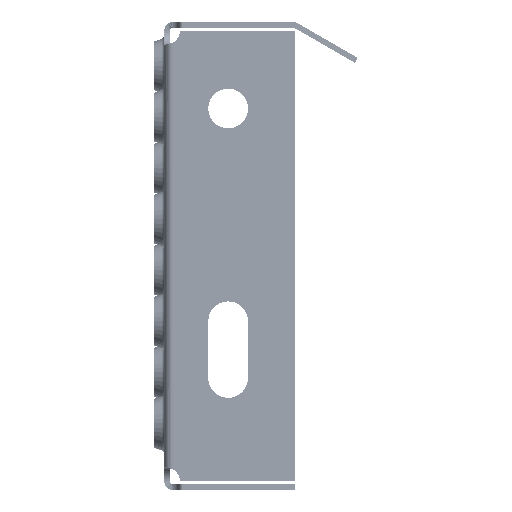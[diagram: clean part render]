
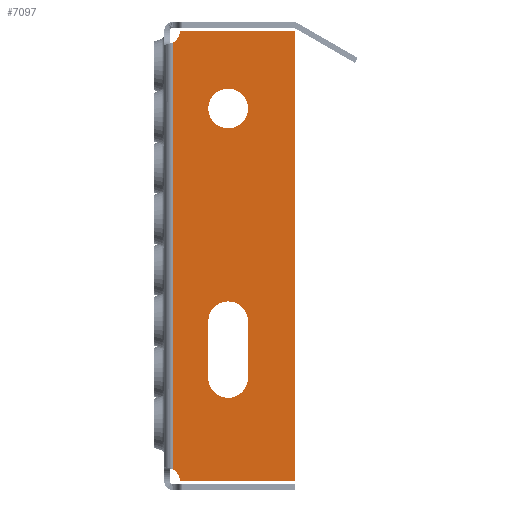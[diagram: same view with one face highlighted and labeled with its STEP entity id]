
A CAD part, left-side view. The second image highlights one B-rep face of the part: STEP entity #7097.
In plain terms, the highlighted planar face has unit normal (-1, 0, 0).
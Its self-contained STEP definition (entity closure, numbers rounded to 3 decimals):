
#428 = EDGE_CURVE ( 'NONE', #27324, #28965, #30324, .T. ) ;
#1532 = EDGE_LOOP ( 'NONE', ( #9585 ) ) ;
#1543 = CARTESIAN_POINT ( 'NONE',  ( -500., -29.5, -43. ) ) ;
#1598 = EDGE_CURVE ( 'NONE', #10504, #5624, #28109, .T. ) ;
#1746 = AXIS2_PLACEMENT_3D ( 'NONE', #19616, #3227, #22379 ) ;
#1761 = EDGE_CURVE ( 'NONE', #14379, #8423, #8438, .T. ) ;
#2084 = VECTOR ( 'NONE', #15971, 1000. ) ;
#2318 = DIRECTION ( 'NONE',  ( -1., 0., 0. ) ) ;
#3044 = VECTOR ( 'NONE', #17443, 1000. ) ;
#3226 = ORIENTED_EDGE ( 'NONE', *, *, #26538, .F. ) ;
#3227 = DIRECTION ( 'NONE',  ( -1., 0., 0. ) ) ;
#3371 = CARTESIAN_POINT ( 'NONE',  ( -500., -6.416, -79.5 ) ) ;
#3604 = EDGE_CURVE ( 'NONE', #16076, #14081, #25903, .T. ) ;
#3921 = DIRECTION ( 'NONE',  ( -1., 0., 0. ) ) ;
#4305 = CARTESIAN_POINT ( 'NONE',  ( -500., -22.5, 45. ) ) ;
#4694 = ORIENTED_EDGE ( 'NONE', *, *, #8571, .T. ) ;
#4806 = DIRECTION ( 'NONE',  ( 0., 1., 0. ) ) ;
#4840 = CARTESIAN_POINT ( 'NONE',  ( -500., -46., -79.5 ) ) ;
#4859 = AXIS2_PLACEMENT_3D ( 'NONE', #20325, #3921, #23061 ) ;
#4904 = CARTESIAN_POINT ( 'NONE',  ( -500., -5.43, -78.667 ) ) ;
#4936 = ORIENTED_EDGE ( 'NONE', *, *, #1598, .T. ) ;
#5542 = AXIS2_PLACEMENT_3D ( 'NONE', #30862, #14497, #33604 ) ;
#5624 = VERTEX_POINT ( 'NONE', #20205 ) ;
#5719 = DIRECTION ( 'NONE',  ( 0., 0., -1. ) ) ;
#5775 = DIRECTION ( 'NONE',  ( 0., 0., 1. ) ) ;
#6507 = DIRECTION ( 'NONE',  ( 1., 0., 0. ) ) ;
#7097 = ADVANCED_FACE ( 'NONE', ( #26706, #33092, #25855 ), #13739, .F. ) ;
#7373 = LINE ( 'NONE', #13923, #28324 ) ;
#7402 = ORIENTED_EDGE ( 'NONE', *, *, #34947, .F. ) ;
#7783 = ORIENTED_EDGE ( 'NONE', *, *, #18513, .T. ) ;
#8423 = VERTEX_POINT ( 'NONE', #32635 ) ;
#8438 = LINE ( 'NONE', #32060, #29359 ) ;
#8571 = EDGE_CURVE ( 'NONE', #14081, #16476, #26233, .T. ) ;
#9186 = CARTESIAN_POINT ( 'NONE',  ( -500., -6.416, -79.5 ) ) ;
#9294 = CARTESIAN_POINT ( 'NONE',  ( -500., -46., -79.5 ) ) ;
#9585 = ORIENTED_EDGE ( 'NONE', *, *, #33243, .F. ) ;
#9974 = EDGE_CURVE ( 'NONE', #28965, #20867, #29952, .T. ) ;
#10221 = ORIENTED_EDGE ( 'NONE', *, *, #21536, .T. ) ;
#10504 = VERTEX_POINT ( 'NONE', #33527 ) ;
#10519 = ORIENTED_EDGE ( 'NONE', *, *, #11097, .F. ) ;
#10520 = CIRCLE ( 'NONE', #33848, 7. ) ;
#11097 = EDGE_CURVE ( 'NONE', #16076, #5624, #7373, .T. ) ;
#11216 = EDGE_CURVE ( 'NONE', #16476, #33207, #25774, .T. ) ;
#11401 = DIRECTION ( 'NONE',  ( -1., 0., 0. ) ) ;
#11409 = CARTESIAN_POINT ( 'NONE',  ( -500., -15.5, -23. ) ) ;
#11486 = DIRECTION ( 'NONE',  ( 0., 0., -1. ) ) ;
#12487 = ORIENTED_EDGE ( 'NONE', *, *, #9974, .F. ) ;
#12898 = LINE ( 'NONE', #9294, #3044 ) ;
#13739 = PLANE ( 'NONE',  #31927 ) ;
#13923 = CARTESIAN_POINT ( 'NONE',  ( -500., -3., -85.416 ) ) ;
#14006 = CARTESIAN_POINT ( 'NONE',  ( -500., -46., 79.5 ) ) ;
#14081 = VERTEX_POINT ( 'NONE', #4904 ) ;
#14379 = VERTEX_POINT ( 'NONE', #14006 ) ;
#14497 = DIRECTION ( 'NONE',  ( -1., 0., 0. ) ) ;
#14661 = VERTEX_POINT ( 'NONE', #4305 ) ;
#15128 = DIRECTION ( 'NONE',  ( 1., 0., 0. ) ) ;
#15971 = DIRECTION ( 'NONE',  ( 0., 0., 1. ) ) ;
#16076 = VERTEX_POINT ( 'NONE', #19289 ) ;
#16341 = ORIENTED_EDGE ( 'NONE', *, *, #11216, .T. ) ;
#16476 = VERTEX_POINT ( 'NONE', #9186 ) ;
#17443 = DIRECTION ( 'NONE',  ( 0., 0., 1. ) ) ;
#18171 = CIRCLE ( 'NONE', #30199, 7. ) ;
#18513 = EDGE_CURVE ( 'NONE', #33207, #14379, #12898, .T. ) ;
#18737 = CARTESIAN_POINT ( 'NONE',  ( -500., -22.5, 52. ) ) ;
#19289 = CARTESIAN_POINT ( 'NONE',  ( -500., -3., -75.17 ) ) ;
#19616 = CARTESIAN_POINT ( 'NONE',  ( -500., -6.416, -78.5 ) ) ;
#19829 = ORIENTED_EDGE ( 'NONE', *, *, #3604, .T. ) ;
#20205 = CARTESIAN_POINT ( 'NONE',  ( -500., -3., 75.17 ) ) ;
#20325 = CARTESIAN_POINT ( 'NONE',  ( -500., -22.5, -23. ) ) ;
#20595 = LINE ( 'NONE', #27866, #26980 ) ;
#20867 = VERTEX_POINT ( 'NONE', #11409 ) ;
#21470 = DIRECTION ( 'NONE',  ( 0., 0., -1. ) ) ;
#21536 = EDGE_CURVE ( 'NONE', #8423, #10504, #24714, .T. ) ;
#21829 = EDGE_LOOP ( 'NONE', ( #10519, #19829, #4694, #16341, #7783, #33696, #10221, #4936 ) ) ;
#22093 = DIRECTION ( 'NONE',  ( 1., 0., 0. ) ) ;
#22379 = DIRECTION ( 'NONE',  ( 0., 0., -1. ) ) ;
#22892 = CARTESIAN_POINT ( 'NONE',  ( -500., -0.5, -79.5 ) ) ;
#23061 = DIRECTION ( 'NONE',  ( 0., 0., -1. ) ) ;
#23786 = CARTESIAN_POINT ( 'NONE',  ( -500., -29.5, -23. ) ) ;
#24714 = CIRCLE ( 'NONE', #5542, 1. ) ;
#25267 = DIRECTION ( 'NONE',  ( 0., -1., 0. ) ) ;
#25371 = CARTESIAN_POINT ( 'NONE',  ( -500., -15.5, -43. ) ) ;
#25642 = DIRECTION ( 'NONE',  ( 0., 0., -1. ) ) ;
#25774 = LINE ( 'NONE', #3371, #33004 ) ;
#25855 = FACE_BOUND ( 'NONE', #25969, .T. ) ;
#25903 = CIRCLE ( 'NONE', #29772, 5. ) ;
#25969 = EDGE_LOOP ( 'NONE', ( #7402, #12487, #28955, #3226 ) ) ;
#26233 = CIRCLE ( 'NONE', #1746, 1. ) ;
#26538 = EDGE_CURVE ( 'NONE', #28756, #27324, #10520, .T. ) ;
#26706 = FACE_OUTER_BOUND ( 'NONE', #21829, .T. ) ;
#26980 = VECTOR ( 'NONE', #11486, 1000. ) ;
#27324 = VERTEX_POINT ( 'NONE', #1543 ) ;
#27785 = CARTESIAN_POINT ( 'NONE',  ( -500., -22.5, -43. ) ) ;
#27866 = CARTESIAN_POINT ( 'NONE',  ( -500., -15.5, -23. ) ) ;
#28109 = CIRCLE ( 'NONE', #30136, 5. ) ;
#28324 = VECTOR ( 'NONE', #5775, 1000. ) ;
#28756 = VERTEX_POINT ( 'NONE', #25371 ) ;
#28955 = ORIENTED_EDGE ( 'NONE', *, *, #428, .F. ) ;
#28965 = VERTEX_POINT ( 'NONE', #23786 ) ;
#29359 = VECTOR ( 'NONE', #4806, 1000. ) ;
#29772 = AXIS2_PLACEMENT_3D ( 'NONE', #22892, #6507, #25642 ) ;
#29952 = CIRCLE ( 'NONE', #4859, 7. ) ;
#30136 = AXIS2_PLACEMENT_3D ( 'NONE', #31483, #15128, #34213 ) ;
#30199 = AXIS2_PLACEMENT_3D ( 'NONE', #18737, #2318, #21470 ) ;
#30324 = LINE ( 'NONE', #35040, #2084 ) ;
#30516 = DIRECTION ( 'NONE',  ( 0., 0., -1. ) ) ;
#30862 = CARTESIAN_POINT ( 'NONE',  ( -500., -6.416, 78.5 ) ) ;
#31483 = CARTESIAN_POINT ( 'NONE',  ( -500., -0.5, 79.5 ) ) ;
#31927 = AXIS2_PLACEMENT_3D ( 'NONE', #32947, #22093, #5719 ) ;
#32060 = CARTESIAN_POINT ( 'NONE',  ( -500., -46., 79.5 ) ) ;
#32635 = CARTESIAN_POINT ( 'NONE',  ( -500., -6.416, 79.5 ) ) ;
#32947 = CARTESIAN_POINT ( 'NONE',  ( -500., 0.5, -85.416 ) ) ;
#33004 = VECTOR ( 'NONE', #25267, 1000. ) ;
#33092 = FACE_BOUND ( 'NONE', #1532, .T. ) ;
#33207 = VERTEX_POINT ( 'NONE', #4840 ) ;
#33243 = EDGE_CURVE ( 'NONE', #14661, #14661, #18171, .T. ) ;
#33527 = CARTESIAN_POINT ( 'NONE',  ( -500., -5.43, 78.667 ) ) ;
#33604 = DIRECTION ( 'NONE',  ( 0., 0., 1. ) ) ;
#33696 = ORIENTED_EDGE ( 'NONE', *, *, #1761, .T. ) ;
#33848 = AXIS2_PLACEMENT_3D ( 'NONE', #27785, #11401, #30516 ) ;
#34213 = DIRECTION ( 'NONE',  ( 0., 0., -1. ) ) ;
#34947 = EDGE_CURVE ( 'NONE', #20867, #28756, #20595, .T. ) ;
#35040 = CARTESIAN_POINT ( 'NONE',  ( -500., -29.5, -23. ) ) ;
